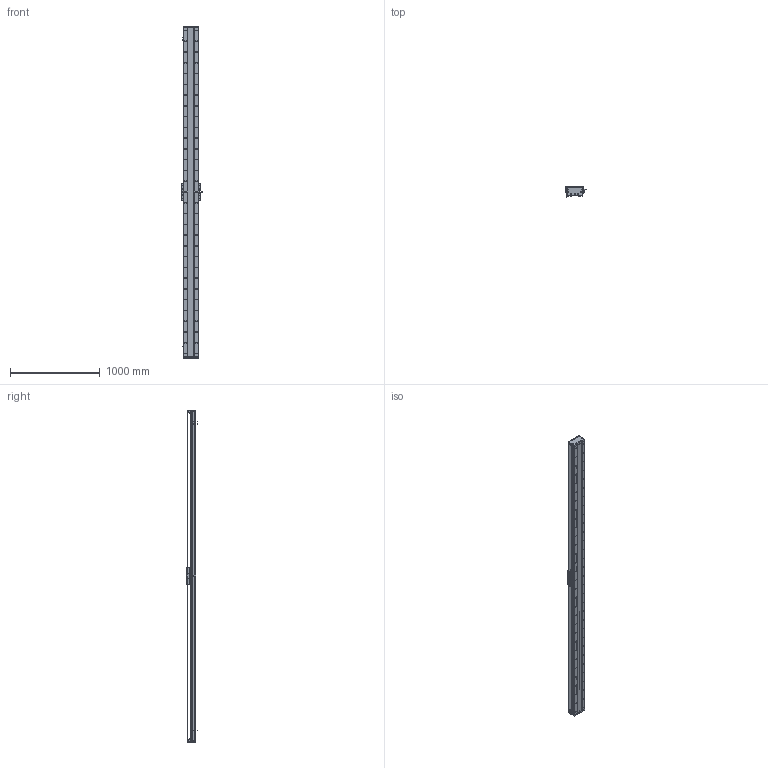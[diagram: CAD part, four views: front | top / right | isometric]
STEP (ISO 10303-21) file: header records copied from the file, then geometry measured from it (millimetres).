
FILE_DESCRIPTION (( 'STEP AP203' ), '1' );
FILE_NAME ('DA-C165-C2-T3420-C010-0.2 直线电机.STEP', '2023-05-11T08:04:59', ( '微软用户' ), ( '微软中国' ), 'SwSTEP 2.0', 'SolidWorks 2019', '' );
FILE_SCHEMA (( 'CONFIG_CONTROL_DESIGN' ));
Length unit declared in the file: millimetre
Products named in the file (18): 复件 DA165-GYP-00 光电感应片^DA-C165-C2-T-C010-0.2-N 直线电机; 复件 DMA-010-0.2 读数头^DA-C165-C2-T-C010-0.2-N 直线电机; 复件 DA165-GD-DG-H-00 端盖^复件 CU165钢带组件_DA-C165-C2-T-C010-0.2-N 直线电机; IU-CU165-L-00 菁釱_L3660; 复件 DA165-GDLK-00 钢带拉块^复件 CU165钢带组件_DA-C165-C2-T-C010-0.2-N 直线电机; DA-C165-C2-T3420-C010-0.2 眻盄萇儂; 葩璃 DA95-GT-T-00^IU-CU165-L 菁釱絳寢_T; 复件 XD-U-02L 磁栅尺^DA-C165-C2-T-C010-0.2-N 直线电机_T; 复件 DA165-GD-1860-002-00 钢带盖板^复件 CU165钢带组件_DA-C165-C2-T-C010-0.2-N 直线电机; 复件 DA165-GDYK-00 钢带压块^复件 CU165钢带组件_DA-C165-C2-T-C010-0.2-N 直线电机; 葩璃 CKM01-W075-TRL^DA-C165-C2-T-C010-0.2-N 眻盄萇儂; 复件 CU165钢带组件^DA-C165-C2-T-C010-0.2-N 直线电机; 葩璃 PM-T45^DA-C165-C2-T-C010-0.2-N 眻盄萇儂; IU-CU165-L 菁釱絳寢; 复件 DA95-HXJ-00 缓冲橡胶^DA-C165-C2-T-C010-0.2-N 直线电机; 珨极趙賑雄怢啣wf-C2; 复件 六角薄螺母 M3^DA-C165-C2-T-C010-0.2-N 直线电机_GB_FASTENER_NUT_STNAB M3-C; 复件 CKM02-W075-C1C2-TP-3.0 一体电机-C2^DA-C165-C2-T-C010-0.2-N 直线电机
Assembly tree (33 placements, depth 3):
  DA-C165-C2-T3420-C010-0.2 眻盄萇儂
    IU-CU165-L 菁釱絳寢
      IU-CU165-L-00 菁釱_L3660
      葩璃 DA95-GT-T-00^IU-CU165-L 菁釱絳寢_T  x4
    复件 XD-U-02L 磁栅尺^DA-C165-C2-T-C010-0.2-N 直线电机_T
    葩璃 PM-T45^DA-C165-C2-T-C010-0.2-N 眻盄萇儂  x3
    葩璃 CKM01-W075-TRL^DA-C165-C2-T-C010-0.2-N 眻盄萇儂
    复件 CU165钢带组件^DA-C165-C2-T-C010-0.2-N 直线电机
      复件 DA165-GD-DG-H-00 端盖^复件 CU165钢带组件_DA-C165-C2-T-C010-0.2-N 直线电机  x2
      复件 DA165-GDYK-00 钢带压块^复件 CU165钢带组件_DA-C165-C2-T-C010-0.2-N 直线电机  x2
      复件 DA165-GD-1860-002-00 钢带盖板^复件 CU165钢带组件_DA-C165-C2-T-C010-0.2-N 直线电机
      复件 DA165-GDLK-00 钢带拉块^复件 CU165钢带组件_DA-C165-C2-T-C010-0.2-N 直线电机  x2
    复件 DA95-HXJ-00 缓冲橡胶^DA-C165-C2-T-C010-0.2-N 直线电机  x4
    复件 DA165-GYP-00 光电感应片^DA-C165-C2-T-C010-0.2-N 直线电机
    复件 DMA-010-0.2 读数头^DA-C165-C2-T-C010-0.2-N 直线电机
    复件 CKM02-W075-C1C2-TP-3.0 一体电机-C2^DA-C165-C2-T-C010-0.2-N 直线电机
    复件 六角薄螺母 M3^DA-C165-C2-T-C010-0.2-N 直线电机_GB_FASTENER_NUT_STNAB M3-C  x6
    珨极趙賑雄怢啣wf-C2
Bounding box: 233 x 111.45 x 3700 mm (x, y, z)
Volume: 19718126.8 mm3; surface area: 6048637 mm2
Topology: 70 solids, 70 shells, 4431 faces, 13479 edges, 8683 vertices
Faces by surface type: cylinder 2813, plane 1138, cone 430, torus 46, sphere 4
Entity records: 158919 total; most frequent: CARTESIAN_POINT 45635, ORIENTED_EDGE 24130, DIRECTION 22553, EDGE_CURVE 12065, AXIS2_PLACEMENT_3D 8675, VERTEX_POINT 7919, EDGE_LOOP 5416, LINE 5203
